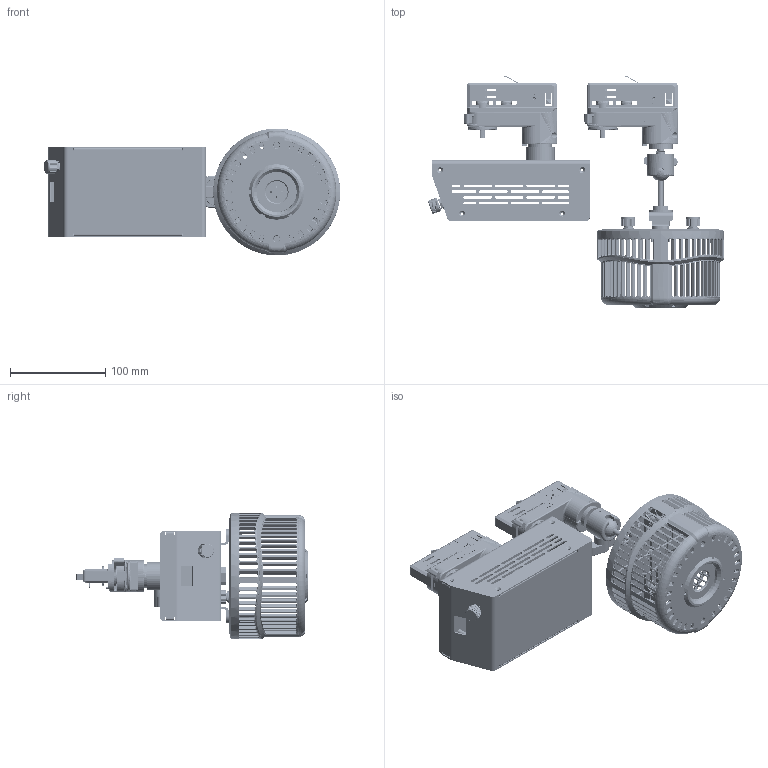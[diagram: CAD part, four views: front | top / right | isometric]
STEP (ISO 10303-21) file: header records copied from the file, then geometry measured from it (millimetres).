
FILE_DESCRIPTION (( 'STEP AP214' ), '1' );
FILE_NAME ('W500X-TOX-PSX.STEP', '2024-01-31T17:36:14', ( '' ), ( '' ), 'SwSTEP 2.0', 'SolidWorks 2022', '' );
FILE_SCHEMA (( 'AUTOMOTIVE_DESIGN' ));
Length unit declared in the file: millimetre
Products named in the file (36): UL002___; 5010177-XXX_A2_Assembly BOM, Kessil W500_N-[TG]; 62282-5014005_ _Standard Types of Metric Set Screws, M4xL5, Black___; UL008___; 5022405-XXX_A1_Wing Knob Screws, M6xL8.0mm_-001; 5022771-XXX_A1_RETAINING M10P1.5 FOR ONETRACK LIGHT SIDE OD25x19.8mm___; UL004___; 5120529-XXX_A1_Assembly BOM, W500 Light Engine_Finish; UL006___; UL010___; 5022431-XXX_A1_Ball Joint Part A, L=23.7mm___; 5022770-XXX_A1_RETAINING COLLAR M10P1.0 FOR ONETRACK POWER BOX OD30x29.8mm___; C007___; Track Adapter-120V 2Circuits (??)___; 5021926-XXX_A2_KNOB, 18T, OD=14.9, ID=6, L=10MM_C1; 5021416_A1_Hex Nut, M10xP1.5, T8 SUS___; UL003___; 5022432-XXX_A2_250W Power Box Cover (TEX-PSX TYPE), 165x92x62.5(H)mm___; 581-F.2___; 5020893-2010525020_ _Flat Washer, M10, ID10.5 OD25.0, T2 SUS 304___; 5120530-XXX_A1_Assembly BOM, W500 Reflector Type_No Reflector; 5022427-XXX_A4_250W Power Box FRAME (TG&TEX&CLP TYPE), 165x95x64mm___; W500X-TOX-PSX; 581-F___; 581-F.1___; 5022693-XXX_A1_Bracket, 98.85x25x17.5, T=2.5mm___; 5120519-XXX_A3_Assembly BOM, Kessil W500 Power Box_TON(US)-PS; 5120539-XXX_A1_Housing, OD=133, ID=121, T=78.1mm, For Reflector, Without Logo___; 5120522-XXX_A4_Assembly BOM, W360&W500 Light Mounting Type_TG; 5020757-002_A2_VR Washer, Kessil A360 Aquarium Light___; 5020897-2010216520_ _Helical Spring Washer Customized___; 5022708-XXX_A2_Ball Joint Axis, L=65.8mm___; 5022189_A1_Plate, OD=48, ID=23, T=2.0mm___; BN_82427_3034251_cross_recessed_flat_countersunk_head_screw_2_2x10_Z_Stahl_einsatzgeh_S_drtet_400_HV___; 5020757-001_A1_VR Nut, Kessil A360 Aquarium Light___; 5120540-XXX_A1_Rear Panel, OD=133, T=13.65mm, W-Series_5120531-001 W500
Assembly tree (43 placements, depth 5):
  W500X-TOX-PSX
    5010177-XXX_A2_Assembly BOM, Kessil W500_N-[TG]
      5120529-XXX_A1_Assembly BOM, W500 Light Engine_Finish
        5120540-XXX_A1_Rear Panel, OD=133, T=13.65mm, W-Series_5120531-001 W500
        5020757-002_A2_VR Washer, Kessil A360 Aquarium Light___  x2
        5020757-001_A1_VR Nut, Kessil A360 Aquarium Light___  x2
        5021926-XXX_A2_KNOB, 18T, OD=14.9, ID=6, L=10MM_C1  x2
      5120530-XXX_A1_Assembly BOM, W500 Reflector Type_No Reflector
        5120539-XXX_A1_Housing, OD=133, ID=121, T=78.1mm, For Reflector, Without Logo___
        5022189_A1_Plate, OD=48, ID=23, T=2.0mm___
      5120522-XXX_A4_Assembly BOM, W360&W500 Light Mounting Type_TG
        5022431-XXX_A1_Ball Joint Part A, L=23.7mm___
        5022708-XXX_A2_Ball Joint Axis, L=65.8mm___
        62282-5014005_ _Standard Types of Metric Set Screws, M4xL5, Black___
        5022405-XXX_A1_Wing Knob Screws, M6xL8.0mm_-001
        5022693-XXX_A1_Bracket, 98.85x25x17.5, T=2.5mm___
        5022771-XXX_A1_RETAINING M10P1.5 FOR ONETRACK LIGHT SIDE OD25x19.8mm___
        Track Adapter-120V 2Circuits (??)___
          UL002___
          UL003___
          UL008___
          UL010___
          UL006___
          C007___
          581-F.2___
          581-F.1___
          581-F___
          BN_82427_3034251_cross_recessed_flat_countersunk_head_screw_2_2x10_Z_Stahl_einsatzgeh_S_drtet_400_HV___
          UL004___
        5020893-2010525020_ _Flat Washer, M10, ID10.5 OD25.0, T2 SUS 304___  x2
        5020897-2010216520_ _Helical Spring Washer Customized___
        5021416_A1_Hex Nut, M10xP1.5, T8 SUS___
    5120519-XXX_A3_Assembly BOM, Kessil W500 Power Box_TON(US)-PS
      5022427-XXX_A4_250W Power Box FRAME (TG&TEX&CLP TYPE), 165x95x64mm___
      5022770-XXX_A1_RETAINING COLLAR M10P1.0 FOR ONETRACK POWER BOX OD30x29.8mm___
      Track Adapter-120V 2Circuits (??)___
        UL002___
        UL003___
        UL008___
        UL010___
        UL006___
        C007___
        581-F.2___
        581-F.1___
        581-F___
        BN_82427_3034251_cross_recessed_flat_countersunk_head_screw_2_2x10_Z_Stahl_einsatzgeh_S_drtet_400_HV___
        UL004___
      5022432-XXX_A2_250W Power Box Cover (TEX-PSX TYPE), 165x92x62.5(H)mm___
      5020757-002_A2_VR Washer, Kessil A360 Aquarium Light___
      5020757-001_A1_VR Nut, Kessil A360 Aquarium Light___
      5021926-XXX_A2_KNOB, 18T, OD=14.9, ID=6, L=10MM_C1
Bounding box: 310.47 x 243.37 x 133 mm (x, y, z)
Volume: 274596.3 mm3; surface area: 406986.2 mm2
Topology: 43 solids, 73 shells, 16098 faces, 44171 edges, 28120 vertices
Faces by surface type: plane 7803, cylinder 4518, bspline 2748, cone 644, torus 361, sphere 24
Entity records: 507809 total; most frequent: CARTESIAN_POINT 249743, ORIENTED_EDGE 55128, DIRECTION 42325, EDGE_CURVE 27748, VERTEX_POINT 17648, AXIS2_PLACEMENT_3D 14274, VECTOR 13777, LINE 13777
